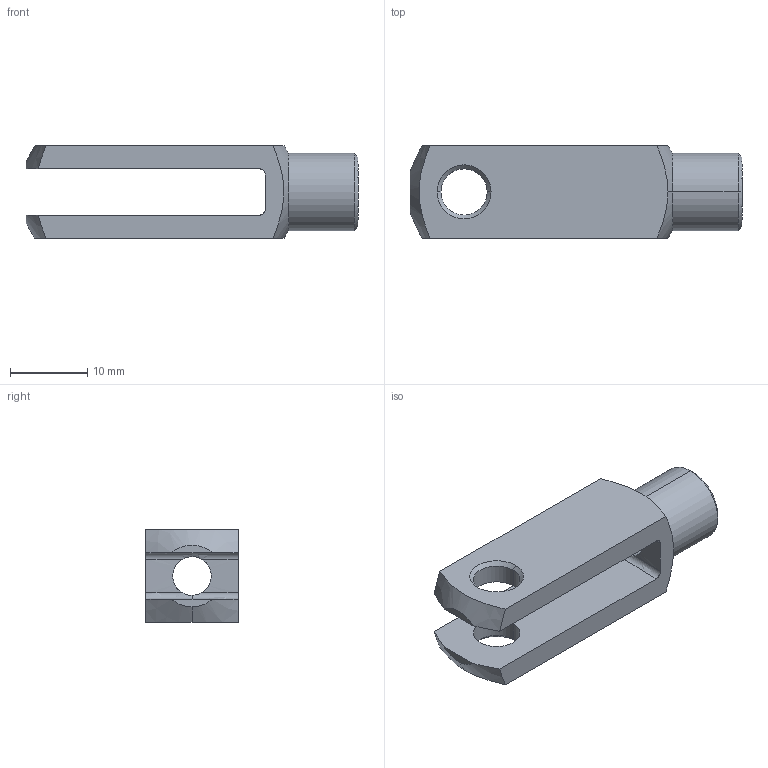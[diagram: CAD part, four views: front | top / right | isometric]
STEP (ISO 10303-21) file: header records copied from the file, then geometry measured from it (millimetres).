
FILE_DESCRIPTION (( 'STEP AP214' ), '1' );
FILE_NAME ('11.G624.STEP', '2017-10-30T09:16:49', ( '' ), ( '' ), 'SwSTEP 2.0', 'SolidWorks 2016', '' );
FILE_SCHEMA (( 'AUTOMOTIVE_DESIGN' ));
Length unit declared in the file: millimetre
Products named in the file (1): 11.G624
Bounding box: 43 x 12 x 12 mm (x, y, z)
Volume: 2836.3 mm3; surface area: 2582.2 mm2
Topology: 1 solids, 1 shells, 35 faces, 91 edges, 57 vertices
Faces by surface type: cone 13, cylinder 10, plane 9, torus 3
Entity records: 1257 total; most frequent: CARTESIAN_POINT 379, ORIENTED_EDGE 182, DIRECTION 169, EDGE_CURVE 91, AXIS2_PLACEMENT_3D 69, VERTEX_POINT 57, EDGE_LOOP 40, FACE_OUTER_BOUND 35
